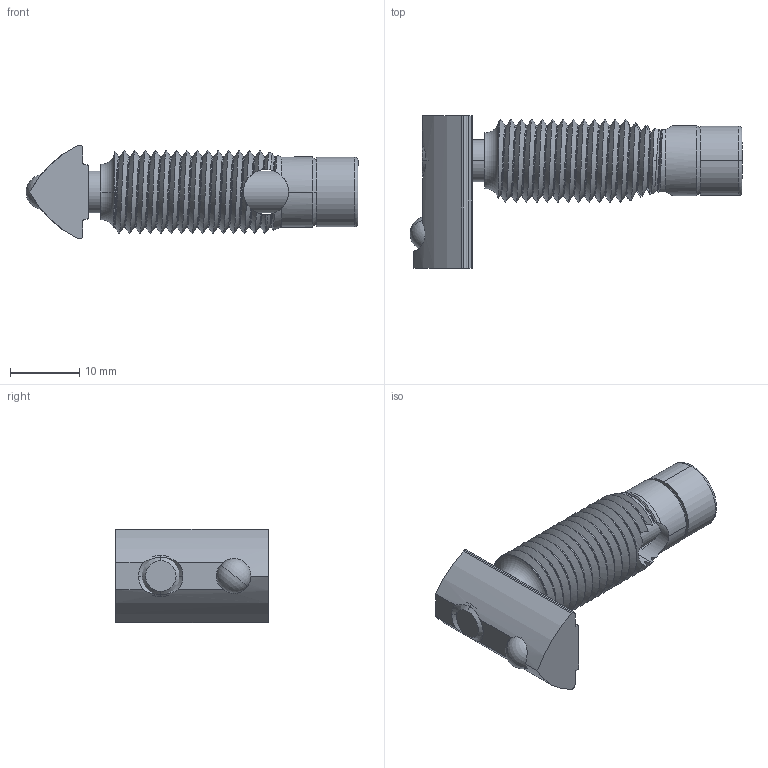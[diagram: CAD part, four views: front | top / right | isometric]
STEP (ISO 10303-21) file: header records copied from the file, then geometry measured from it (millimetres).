
FILE_DESCRIPTION (( 'STEP AP214' ), '1' );
FILE_NAME ('27957_AUTVERSTZ.STEP', '2016-11-03T10:33:32', ( '' ), ( '' ), 'SwSTEP 2.0', 'SolidWorks 2016', '' );
FILE_SCHEMA (( 'AUTOMOTIVE_DESIGN' ));
Length unit declared in the file: millimetre
Products named in the file (5): nutenstein ohne kugel; fath_099g081_01; fath_099g081_04; schraube; 27957_AUTVERSTZ
Assembly tree (4 placements, depth 2):
  27957_AUTVERSTZ
    fath_099g081_01
    nutenstein ohne kugel
    schraube
    fath_099g081_04
Bounding box: 47.8 x 22 x 13.5 mm (x, y, z)
Volume: 4476.7 mm3; surface area: 4459.8 mm2
Topology: 4 solids, 4 shells, 170 faces, 461 edges, 295 vertices
Faces by surface type: plane 58, cylinder 57, bspline 31, cone 18, torus 4, sphere 2
Entity records: 70426 total; most frequent: CARTESIAN_POINT 66425, ORIENTED_EDGE 908, DIRECTION 623, EDGE_CURVE 454, VERTEX_POINT 292, AXIS2_PLACEMENT_3D 227, B_SPLINE_CURVE_WITH_KNOTS 179, EDGE_LOOP 178
